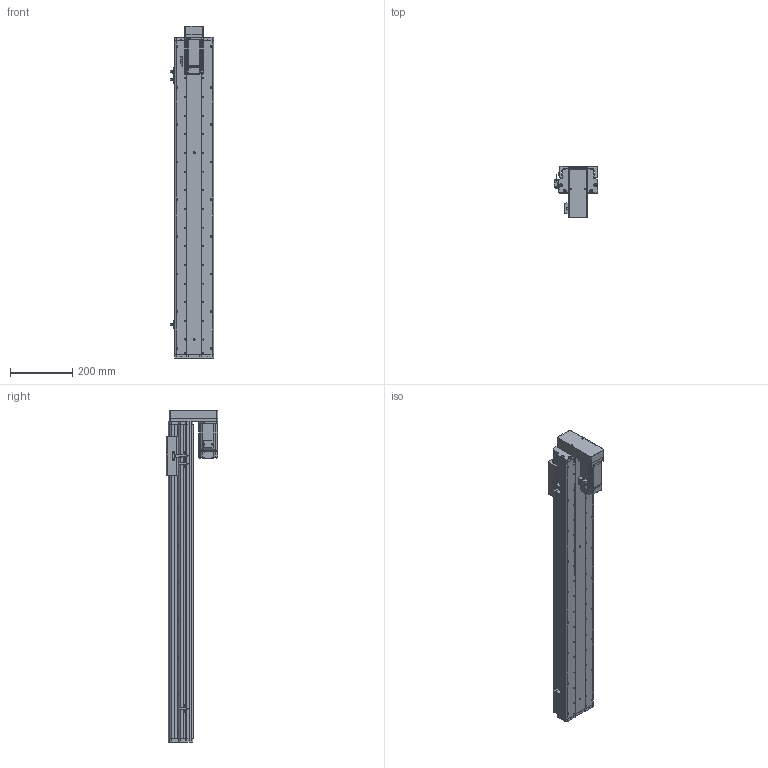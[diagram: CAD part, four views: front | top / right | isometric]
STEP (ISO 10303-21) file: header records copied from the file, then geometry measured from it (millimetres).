
FILE_DESCRIPTION (( 'STEP AP214' ), '1' );
FILE_NAME ('KSD125S-S800-MD-CM.STEP', '2017-10-21T08:12:44', ( '微软用户' ), ( '微软中国' ), 'SwSTEP 2.0', 'SolidWorks 2014', '' );
FILE_SCHEMA (( 'AUTOMOTIVE_DESIGN' ));
Length unit declared in the file: millimetre
Products named in the file (16): U倰嫖萇EEㄜSX672; ヶ傷啣-125遵耀郪; 125-帣傷啣1; KSD125S-S800-MD-CM; 125遵悵誘欶奻狟殏; 125宽马达安装板连板上下折丝杆同步带; HTPA30S3M150_A_H6_a萇儂蚚; HTPA30S3M150_A_H6_a佪裝蚚; KSD125-賑雄釱1; KSD125S-800俴最佪裝滅鳥裔; KSD125S-800俴最佪裝菁啣; MHMD042G1CA_2_03; 拸萇儂釱滅袉菜; 拸萇儂釱滅袉菜-1; 覜茼え68遵圉猾敕; U倰嫖萇假蚾璃
Assembly tree (19 placements, depth 2):
  KSD125S-S800-MD-CM
    125-帣傷啣1
    ヶ傷啣-125遵耀郪
    U倰嫖萇EEㄜSX672  x3
    U倰嫖萇假蚾璃  x3
    覜茼え68遵圉猾敕
    拸萇儂釱滅袉菜-1
    拸萇儂釱滅袉菜
    MHMD042G1CA_2_03
    KSD125S-800俴最佪裝菁啣
    KSD125S-800俴最佪裝滅鳥裔
    KSD125-賑雄釱1
    HTPA30S3M150_A_H6_a佪裝蚚
    HTPA30S3M150_A_H6_a萇儂蚚
    125宽马达安装板连板上下折丝杆同步带
    125遵悵誘欶奻狟殏
Bounding box: 138.7 x 165 x 1067.5 mm (x, y, z)
Volume: 3414872.5 mm3; surface area: 1158041.9 mm2
Topology: 18 solids, 21 shells, 2233 faces, 6477 edges, 4273 vertices
Faces by surface type: cylinder 1406, plane 686, cone 119, bspline 22
Entity records: 80165 total; most frequent: CARTESIAN_POINT 16027, DIRECTION 12315, ORIENTED_EDGE 11462, EDGE_CURVE 5809, AXIS2_PLACEMENT_3D 4767, VERTEX_POINT 3865, LINE 2781, VECTOR 2781
